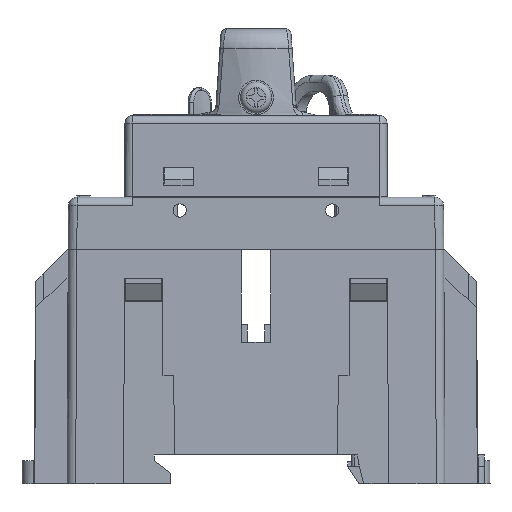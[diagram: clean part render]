
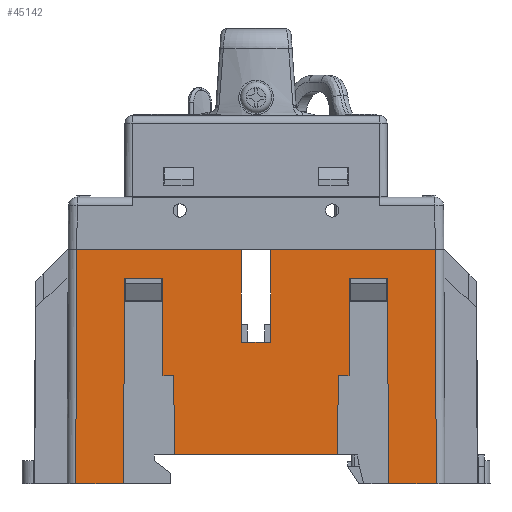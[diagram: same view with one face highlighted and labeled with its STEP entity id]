
A CAD part, left-side view. The second image highlights one B-rep face of the part: STEP entity #45142.
In plain terms, the highlighted planar face has unit normal (-1, 0, 0.005).
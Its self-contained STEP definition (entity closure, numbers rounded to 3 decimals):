
#9716=CARTESIAN_POINT('',(-18.186,-14.147,-1.7));
#9717=VERTEX_POINT('',#9716);
#9724=CARTESIAN_POINT('',(-18.186,14.147,-1.7));
#9725=VERTEX_POINT('',#9724);
#9726=CARTESIAN_POINT('',(-18.186,-14.147,-1.7));
#9727=DIRECTION('',(0.,1.0,0.0));
#9728=VECTOR('',#9727,28.295);
#9729=LINE('',#9726,#9728);
#9730=EDGE_CURVE('',#9717,#9725,#9729,.T.);
#15905=CARTESIAN_POINT('',(-18.026,-16.35,28.9));
#15906=VERTEX_POINT('',#15905);
#15907=CARTESIAN_POINT('',(-18.026,-22.6,28.9));
#15908=VERTEX_POINT('',#15907);
#15909=CARTESIAN_POINT('',(-18.026,-22.6,28.9));
#15910=DIRECTION('',(0.,1.0,0.));
#15911=VECTOR('',#15910,6.25);
#15912=LINE('',#15909,#15911);
#15913=EDGE_CURVE('',#15906,#15908,#15912,.F.);
#16025=CARTESIAN_POINT('',(-18.026,22.6,28.9));
#16026=VERTEX_POINT('',#16025);
#16027=CARTESIAN_POINT('',(-18.026,16.35,28.9));
#16028=VERTEX_POINT('',#16027);
#16029=CARTESIAN_POINT('',(-18.026,16.35,28.9));
#16030=DIRECTION('',(0.,1.0,0.));
#16031=VECTOR('',#16030,6.25);
#16032=LINE('',#16029,#16031);
#16033=EDGE_CURVE('',#16026,#16028,#16032,.F.);
#33605=CARTESIAN_POINT('',(-18.026,-16.2,28.9));
#33606=VERTEX_POINT('',#33605);
#33607=CARTESIAN_POINT('',(-18.026,-16.35,28.9));
#33608=DIRECTION('',(0.,1.0,0.));
#33609=VECTOR('',#33608,0.15);
#33610=LINE('',#33607,#33609);
#33611=EDGE_CURVE('',#33606,#15906,#33610,.F.);
#33644=CARTESIAN_POINT('',(-18.026,-22.75,28.9));
#33645=VERTEX_POINT('',#33644);
#33652=CARTESIAN_POINT('',(-18.026,-22.75,28.9));
#33653=DIRECTION('',(0.,1.0,0.));
#33654=VECTOR('',#33653,0.15);
#33655=LINE('',#33652,#33654);
#33656=EDGE_CURVE('',#15908,#33645,#33655,.F.);
#33737=CARTESIAN_POINT('',(-18.026,16.2,28.9));
#33738=VERTEX_POINT('',#33737);
#33745=CARTESIAN_POINT('',(-18.026,16.2,28.9));
#33746=DIRECTION('',(0.,1.0,0.));
#33747=VECTOR('',#33746,0.15);
#33748=LINE('',#33745,#33747);
#33749=EDGE_CURVE('',#16028,#33738,#33748,.F.);
#33760=CARTESIAN_POINT('',(-18.026,22.75,28.9));
#33761=VERTEX_POINT('',#33760);
#33762=CARTESIAN_POINT('',(-18.026,22.6,28.9));
#33763=DIRECTION('',(0.,1.0,0.));
#33764=VECTOR('',#33763,0.15);
#33765=LINE('',#33762,#33764);
#33766=EDGE_CURVE('',#33761,#16026,#33765,.F.);
#36929=CARTESIAN_POINT('',(-18.212,22.936,-6.7));
#36930=VERTEX_POINT('',#36929);
#36937=CARTESIAN_POINT('',(-18.212,31.212,-6.7));
#36938=VERTEX_POINT('',#36937);
#36939=CARTESIAN_POINT('',(-18.212,22.936,-6.7));
#36940=DIRECTION('',(0.,1.0,0.0));
#36941=VECTOR('',#36940,8.276);
#36942=LINE('',#36939,#36941);
#36943=EDGE_CURVE('',#36938,#36930,#36942,.F.);
#37425=CARTESIAN_POINT('',(-18.212,-31.212,-6.7));
#37426=VERTEX_POINT('',#37425);
#37434=CARTESIAN_POINT('',(-18.212,-22.936,-6.7));
#37435=VERTEX_POINT('',#37434);
#37436=CARTESIAN_POINT('',(-18.212,-31.212,-6.7));
#37437=DIRECTION('',(0.,1.0,0.0));
#37438=VECTOR('',#37437,8.276);
#37439=LINE('',#37436,#37438);
#37440=EDGE_CURVE('',#37426,#37435,#37439,.T.);
#38052=CARTESIAN_POINT('',(-18.,31.,33.8));
#38053=VERTEX_POINT('',#38052);
#38061=CARTESIAN_POINT('',(-18.,2.584,33.8));
#38062=VERTEX_POINT('',#38061);
#38063=CARTESIAN_POINT('',(-18.,2.584,33.8));
#38064=DIRECTION('',(0.,1.0,0.0));
#38065=VECTOR('',#38064,28.416);
#38066=LINE('',#38063,#38065);
#38067=EDGE_CURVE('',#38062,#38053,#38066,.T.);
#45019=CARTESIAN_POINT('',(-18.212,31.212,-6.7));
#45020=DIRECTION('',(0.005,-0.005,1.));
#45021=VECTOR('',#45020,40.501);
#45022=LINE('',#45019,#45021);
#45023=EDGE_CURVE('',#36938,#38053,#45022,.T.);
#45030=CARTESIAN_POINT('',(-18.177,0.,0.));
#45031=DIRECTION('',(-1.,0.,0.005));
#45032=DIRECTION('',(0.005,0.,1.));
#45033=AXIS2_PLACEMENT_3D('',#45030,#45031,#45032);
#45034=PLANE('',#45033);
#45035=ORIENTED_EDGE('',*,*,#45023,.F.);
#45036=ORIENTED_EDGE('',*,*,#36943,.T.);
#45037=CARTESIAN_POINT('',(-18.212,22.936,-6.7));
#45038=DIRECTION('',(0.005,-0.005,1.));
#45039=VECTOR('',#45038,35.601);
#45040=LINE('',#45037,#45039);
#45041=EDGE_CURVE('',#36930,#33761,#45040,.T.);
#45042=ORIENTED_EDGE('',*,*,#45041,.T.);
#45043=ORIENTED_EDGE('',*,*,#33766,.T.);
#45044=ORIENTED_EDGE('',*,*,#16033,.T.);
#45045=ORIENTED_EDGE('',*,*,#33749,.T.);
#45046=CARTESIAN_POINT('',(-18.114,16.112,12.));
#45047=VERTEX_POINT('',#45046);
#45048=CARTESIAN_POINT('',(-18.026,16.2,28.9));
#45049=DIRECTION('',(-0.005,-0.005,-1.));
#45050=VECTOR('',#45049,16.9);
#45051=LINE('',#45048,#45050);
#45052=EDGE_CURVE('',#33738,#45047,#45051,.T.);
#45053=ORIENTED_EDGE('',*,*,#45052,.T.);
#45054=CARTESIAN_POINT('',(-18.114,14.219,12.));
#45055=VERTEX_POINT('',#45054);
#45056=CARTESIAN_POINT('',(-18.114,14.219,12.));
#45057=DIRECTION('',(0.,1.0,0.));
#45058=VECTOR('',#45057,1.892);
#45059=LINE('',#45056,#45058);
#45060=EDGE_CURVE('',#45047,#45055,#45059,.F.);
#45061=ORIENTED_EDGE('',*,*,#45060,.T.);
#45062=CARTESIAN_POINT('',(-18.114,14.219,12.));
#45063=DIRECTION('',(-0.005,-0.005,-1.));
#45064=VECTOR('',#45063,13.7);
#45065=LINE('',#45062,#45064);
#45066=EDGE_CURVE('',#45055,#9725,#45065,.T.);
#45067=ORIENTED_EDGE('',*,*,#45066,.T.);
#45068=ORIENTED_EDGE('',*,*,#9730,.F.);
#45069=CARTESIAN_POINT('',(-18.114,-14.219,12.));
#45070=VERTEX_POINT('',#45069);
#45071=CARTESIAN_POINT('',(-18.186,-14.147,-1.7));
#45072=DIRECTION('',(0.005,-0.005,1.));
#45073=VECTOR('',#45072,13.7);
#45074=LINE('',#45071,#45073);
#45075=EDGE_CURVE('',#9717,#45070,#45074,.T.);
#45076=ORIENTED_EDGE('',*,*,#45075,.T.);
#45077=CARTESIAN_POINT('',(-18.114,-16.112,12.));
#45078=VERTEX_POINT('',#45077);
#45079=CARTESIAN_POINT('',(-18.114,-16.112,12.));
#45080=DIRECTION('',(0.,1.0,0.));
#45081=VECTOR('',#45080,1.892);
#45082=LINE('',#45079,#45081);
#45083=EDGE_CURVE('',#45070,#45078,#45082,.F.);
#45084=ORIENTED_EDGE('',*,*,#45083,.T.);
#45085=CARTESIAN_POINT('',(-18.114,-16.112,12.));
#45086=DIRECTION('',(0.005,-0.005,1.));
#45087=VECTOR('',#45086,16.9);
#45088=LINE('',#45085,#45087);
#45089=EDGE_CURVE('',#45078,#33606,#45088,.T.);
#45090=ORIENTED_EDGE('',*,*,#45089,.T.);
#45091=ORIENTED_EDGE('',*,*,#33611,.T.);
#45092=ORIENTED_EDGE('',*,*,#15913,.T.);
#45093=ORIENTED_EDGE('',*,*,#33656,.T.);
#45094=CARTESIAN_POINT('',(-18.026,-22.75,28.9));
#45095=DIRECTION('',(-0.005,-0.005,-1.));
#45096=VECTOR('',#45095,35.601);
#45097=LINE('',#45094,#45096);
#45098=EDGE_CURVE('',#33645,#37435,#45097,.T.);
#45099=ORIENTED_EDGE('',*,*,#45098,.T.);
#45100=ORIENTED_EDGE('',*,*,#37440,.F.);
#45101=CARTESIAN_POINT('',(-18.,-31.,33.8));
#45102=VERTEX_POINT('',#45101);
#45103=CARTESIAN_POINT('',(-18.,-31.,33.8));
#45104=DIRECTION('',(-0.005,-0.005,-1.));
#45105=VECTOR('',#45104,40.501);
#45106=LINE('',#45103,#45105);
#45107=EDGE_CURVE('',#45102,#37426,#45106,.T.);
#45108=ORIENTED_EDGE('',*,*,#45107,.F.);
#45109=CARTESIAN_POINT('',(-18.,-2.584,33.8));
#45110=VERTEX_POINT('',#45109);
#45111=CARTESIAN_POINT('',(-18.,-2.584,33.8));
#45112=DIRECTION('',(0.,-1.0,0.0));
#45113=VECTOR('',#45112,28.416);
#45114=LINE('',#45111,#45113);
#45115=EDGE_CURVE('',#45110,#45102,#45114,.T.);
#45116=ORIENTED_EDGE('',*,*,#45115,.F.);
#45117=CARTESIAN_POINT('',(-18.084,-2.5,17.8));
#45118=VERTEX_POINT('',#45117);
#45119=CARTESIAN_POINT('',(-18.084,-2.5,17.8));
#45120=DIRECTION('',(0.005,-0.005,1.));
#45121=VECTOR('',#45120,16.);
#45122=LINE('',#45119,#45121);
#45123=EDGE_CURVE('',#45110,#45118,#45122,.F.);
#45124=ORIENTED_EDGE('',*,*,#45123,.T.);
#45125=CARTESIAN_POINT('',(-18.084,2.5,17.8));
#45126=VERTEX_POINT('',#45125);
#45127=CARTESIAN_POINT('',(-18.084,-2.5,17.8));
#45128=DIRECTION('',(0.,1.0,0.0));
#45129=VECTOR('',#45128,5.);
#45130=LINE('',#45127,#45129);
#45131=EDGE_CURVE('',#45118,#45126,#45130,.T.);
#45132=ORIENTED_EDGE('',*,*,#45131,.T.);
#45133=CARTESIAN_POINT('',(-18.,2.584,33.8));
#45134=DIRECTION('',(-0.005,-0.005,-1.));
#45135=VECTOR('',#45134,16.);
#45136=LINE('',#45133,#45135);
#45137=EDGE_CURVE('',#45126,#38062,#45136,.F.);
#45138=ORIENTED_EDGE('',*,*,#45137,.T.);
#45139=ORIENTED_EDGE('',*,*,#38067,.T.);
#45140=EDGE_LOOP('',(#45035,#45036,#45042,#45043,#45044,#45045,#45053,#45061,#45067,#45068,#45076,#45084,#45090,#45091,#45092,#45093,#45099,#45100,#45108,#45116,#45124,#45132,#45138,#45139));
#45141=FACE_OUTER_BOUND('',#45140,.T.);
#45142=ADVANCED_FACE('',(#45141),#45034,.T.);
